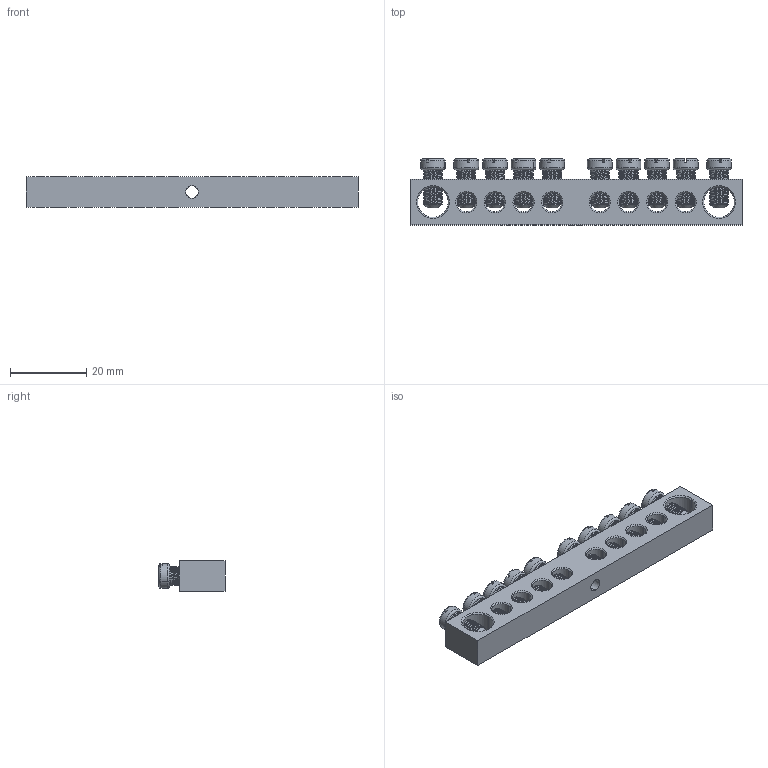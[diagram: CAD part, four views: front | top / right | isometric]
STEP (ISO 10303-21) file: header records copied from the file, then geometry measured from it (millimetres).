
FILE_DESCRIPTION (( 'STEP AP214' ), '1' );
FILE_NAME ('Øèíà íóëåâàÿ ñ êðåïåæíûì îòâåðñòèåì ïî öåíòðó 8õ12 10-1.STEP', '2020-02-07T06:05:10', ( '' ), ( '' ), 'SwSTEP 2.0', 'SolidWorks 2018', '' );
FILE_SCHEMA (( 'AUTOMOTIVE_DESIGN' ));
Length unit declared in the file: millimetre
Products named in the file (3): Âèíò ì5; Øèíà 8õ12 10 1; Øèíà íóëåâàÿ ñ êðåïåæíûì îòâåðñòèåì ïî öåíòðó 8õ12 10-1
Assembly tree (11 placements, depth 2):
  Øèíà íóëåâàÿ ñ êðåïåæíûì îòâåðñòèåì ïî öåíòðó 8õ12 10-1
    Øèíà 8õ12 10 1
    Âèíò ì5  x10
Bounding box: 87 x 17.3 x 8 mm (x, y, z)
Volume: 8274.7 mm3; surface area: 8119.6 mm2
Topology: 11 solids, 11 shells, 838 faces, 2318 edges, 1492 vertices
Faces by surface type: cylinder 322, plane 276, cone 140, torus 70, bspline 30
Entity records: 7863 total; most frequent: CARTESIAN_POINT 3537, ORIENTED_EDGE 852, DIRECTION 803, EDGE_CURVE 426, AXIS2_PLACEMENT_3D 315, VERTEX_POINT 268, EDGE_LOOP 206, VECTOR 173
